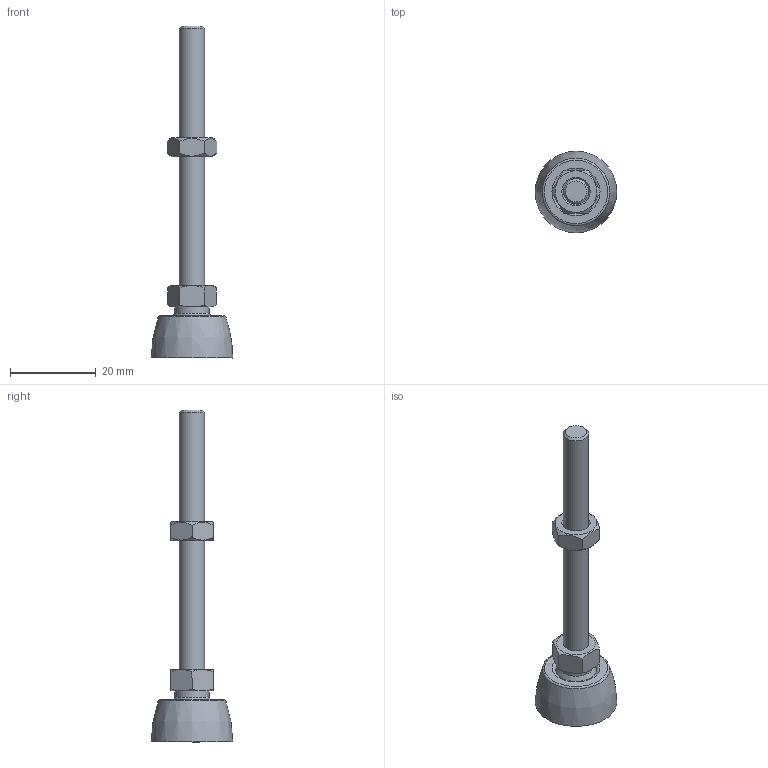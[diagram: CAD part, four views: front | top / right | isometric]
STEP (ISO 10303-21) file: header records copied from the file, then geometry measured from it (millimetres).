
FILE_DESCRIPTION(/* description */ ('STEP AP203'),/* implementation_level */ '2;1');
FILE_NAME(/* name */ 'Articulating Levelling Foot - Nylon 19mm - M6 - 60mm.step',/* time_stamp */ '2025-10-14T17:30:42+03:00',/* author */ (''),/* organization */ (''),/* preprocessor_version */ 'ST-DEVELOPER v20.1',/* originating_system */ 'Autodesk Translation Framework v14.17.0.0',/* authorisation */ '');
FILE_SCHEMA (('AUTOMOTIVE_DESIGN { 1 0 10303 214 3 1 1 }'));
Length unit declared in the file: millimetre
Products named in the file (1): 340.0801A.01
Bounding box: 19 x 19 x 77.4 mm (x, y, z)
Volume: 4447.4 mm3; surface area: 3081.9 mm2
Topology: 1 solids, 1 shells, 57 faces, 150 edges, 103 vertices
Faces by surface type: plane 27, cone 17, cylinder 5, torus 5, sphere 2, bspline 1
Full cylindrical faces by diameter (mm): 5.884 x2, 8 x1, 11 x1, 16 x1
Entity records: 2426 total; most frequent: CARTESIAN_POINT 1069, ORIENTED_EDGE 296, DIRECTION 270, EDGE_CURVE 148, AXIS2_PLACEMENT_3D 124, VERTEX_POINT 103, EDGE_LOOP 67, CIRCLE 67
